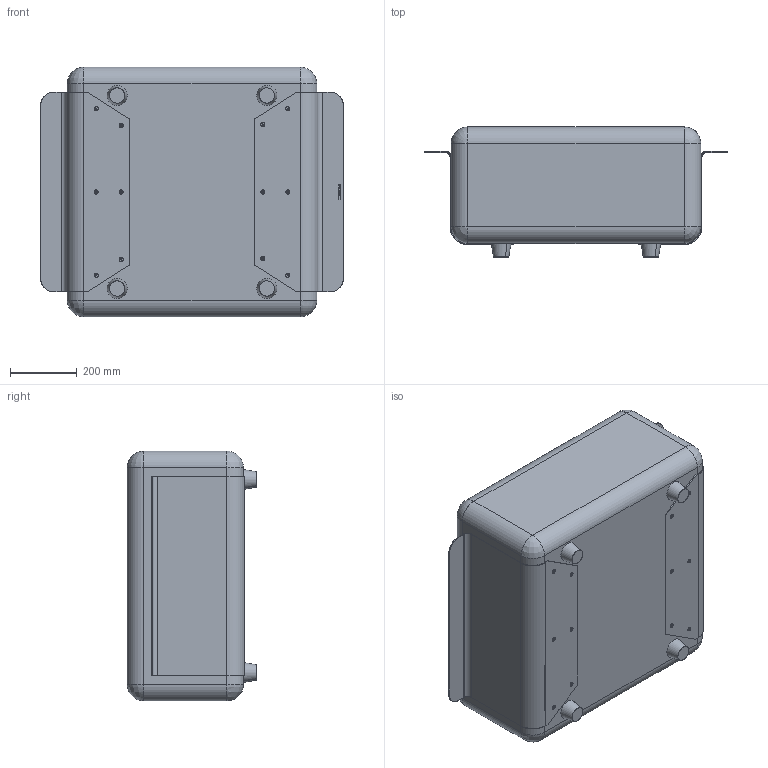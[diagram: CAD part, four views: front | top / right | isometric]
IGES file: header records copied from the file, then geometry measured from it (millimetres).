
Start section: SolidWorks IGES file using analytic representation for surfaces
Global section: file name: \\utenti\Dati Utenti\Tecnico\DC\2D - 3D per sito\3D\DeCastelli-3D-Loom Pouf.igs; native system: SolidWorks 2022; preprocessor: SolidWorks 2022; author: Simonep; date: 240729.120314; units: millimetre
Bounding box: 910 x 390 x 750 mm (x, y, z)
Surface area: 2763945.1 mm2 (no closed solid volume)
Topology: 0 solids, 0 shells, 195 faces, 2539 edges, 2534 vertices
Faces by surface type: bspline 121, revolution 74
